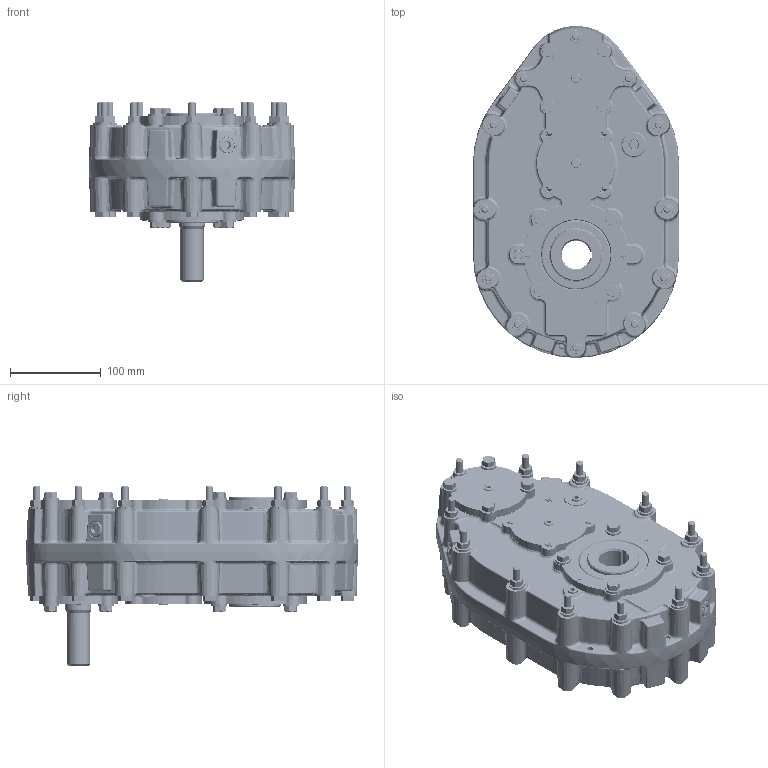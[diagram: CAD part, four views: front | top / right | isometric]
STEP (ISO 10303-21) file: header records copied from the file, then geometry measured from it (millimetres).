
FILE_DESCRIPTION (( 'STEP AP203' ), '1' );
FILE_NAME ('D050E814002.STEP', '2022-03-08T20:48:16', ( '' ), ( '' ), 'SwSTEP 2.0', 'SolidWorks 2021', '' );
FILE_SCHEMA (( 'CONFIG_CONTROL_DESIGN' ));
Length unit declared in the file: inch
Products named in the file (1): D050E814002
Bounding box: 226.76 x 365.05 x 197.17 mm (x, y, z)
Volume: 2734895 mm3; surface area: 815729 mm2
Topology: 128 solids, 131 shells, 6052 faces, 15420 edges, 9752 vertices
Faces by surface type: plane 1907, cylinder 1900, bspline 1335, cone 874, torus 36
Entity records: 258440 total; most frequent: CARTESIAN_POINT 120315, ORIENTED_EDGE 30672, DIRECTION 26814, EDGE_CURVE 15336, AXIS2_PLACEMENT_3D 10178, VERTEX_POINT 9752, EDGE_LOOP 6672, LINE 6458
